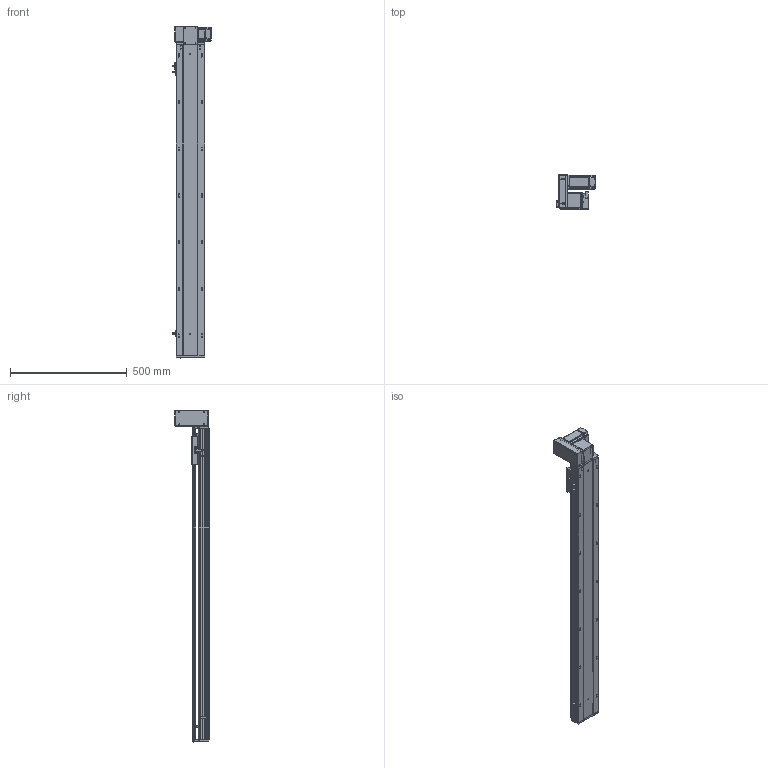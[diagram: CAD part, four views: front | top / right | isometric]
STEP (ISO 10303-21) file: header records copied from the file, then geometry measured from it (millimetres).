
FILE_DESCRIPTION (( 'STEP AP203' ), '1' );
FILE_NAME ('RY120-T-300-UL.SLDASM_1100.step', '2021-03-01T05:36:23', ( '盈信电脑' ), ( '东莞市道滘镇水果街19号' ), 'SwSTEP 2.0', 'SolidWorks 2012', '' );
FILE_SCHEMA (( 'CONFIG_CONTROL_DESIGN' ));
Length unit declared in the file: millimetre
Products named in the file (18): RY120外置感应片(140共用）; RY120-T肮祭湍揤踡輸1; RY120-T肮祭湍揤踡輸2; 覜茼ん672; RY120-T蹟翐M4; RY120-T萇儂欶; RY120-T翋肮祭謫裔啣; RY120-T-300-UL.SLDASM_1100; 侂狟400W侜督萇儂; 滅袉蝶18-10; RY120-T主同步轮轴承压盖; 15; RY120-T翋肮祭盓傅釱; RY120-T萇儂假蚾啣; RY120綴裔啣; RY120肮祭湍臏賑輸; RY120-T-300-UL倰第奻裔啣_1100; RY120-T-300-UL倰第菁釱_1100
Assembly tree (23 placements, depth 3):
  RY120-T-300-UL.SLDASM_1100
    RY120-T-300-UL倰第菁釱_1100
    RY120-T-300-UL倰第奻裔啣_1100
    RY120肮祭湍臏賑輸
    RY120綴裔啣
    覜茼ん672  x3
    RY120外置感应片(140共用）
    RY120-T肮祭湍揤踡輸1
    RY120-T肮祭湍揤踡輸2
    RY120-T翋肮祭盓傅釱
    RY120-T萇儂假蚾啣
    侂狟400W侜督萇儂
      15
    RY120-T主同步轮轴承压盖
    滅袉蝶18-10  x2
    RY120-T萇儂欶
    RY120-T蹟翐M4  x4
    RY120-T翋肮祭謫裔啣
Bounding box: 164.2 x 146 x 1421 mm (x, y, z)
Volume: 3836994.8 mm3; surface area: 1437137.7 mm2
Topology: 23 solids, 23 shells, 2828 faces, 7700 edges, 4930 vertices
Faces by surface type: plane 1412, cylinder 1070, cone 257, bspline 89
Entity records: 89826 total; most frequent: CARTESIAN_POINT 22698, ORIENTED_EDGE 13808, DIRECTION 13106, EDGE_CURVE 6904, VERTEX_POINT 4517, AXIS2_PLACEMENT_3D 4393, VECTOR 4320, LINE 4320
